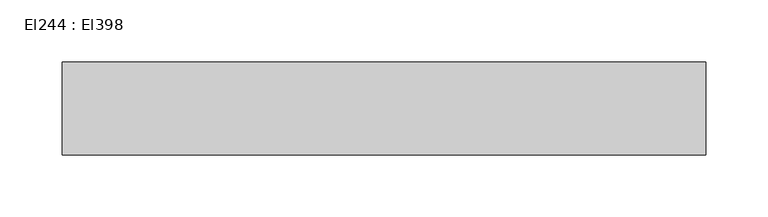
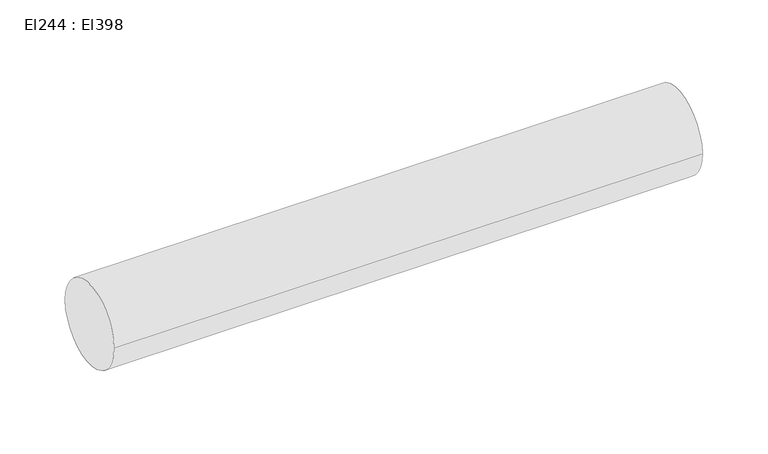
"""IFC4 building model written with IfcOpenShell, lengths in millimetres: cable carrier segment geometry, El244 : El398."""

from ifc_helpers import new_model, si_unit, point, frame, frame_2d, origin, place, context, project, spatial, circle_curve, trimmed, segment, composite_curve, outline, extrude, source, transform, mapped, element, save


def el244_el398_b67abc26(model_context):
    return source(origin(), model_context, "Body", "SweptSolid", [
        extrude(outline(composite_curve([segment(trimmed(circle_curve(frame_2d((4616.0121745, 2700.0)), 37.5), [point((4578.5121745, 2700.0))], [point((4653.5121745, 2700.0))], False, "CARTESIAN"), True, "CONTINUOUS"), segment(trimmed(circle_curve(frame_2d((4616.0121745, 2700.0)), 37.5), [point((4653.5121745, 2700.0))], [point((4578.5121745, 2700.0))], False, "CARTESIAN"), True, "CONTINUOUS")], self_intersect=False)), frame((23017.4286511, 0.0, 0.0), z_axis=(1.0, 0.0, 0.0), x_axis=(0.0, 1.0, 0.0)), (0.0, 0.0, 1.0), 519.292),
    ])


if __name__ == "__main__":
    model = new_model("IFC4")
    model_context = context("Model", 3, world=origin())
    ifc_project = project(units=[si_unit("LENGTHUNIT", "METRE", prefix="MILLI")], contexts=[model_context])
    site = spatial("IfcSite", under=ifc_project)
    building = spatial("IfcBuilding", under=site)
    placement = place(None, origin())
    el244_el398_shape = el244_el398_b67abc26(model_context)
    element("IfcCableCarrierSegment", 1, ObjectType="El244 : El398", at=placement, inside=building, context=model_context, shape_type="MappedRepresentation", body=[
        mapped(el244_el398_shape, transform((0.0, 0.0, 0.0), x_axis=(1.0, 0.0, 0.0), y_axis=(0.0, 1.0, 0.0), z_axis=(0.0, 0.0, 1.0))),
    ])
    save(model, "model.ifc")
